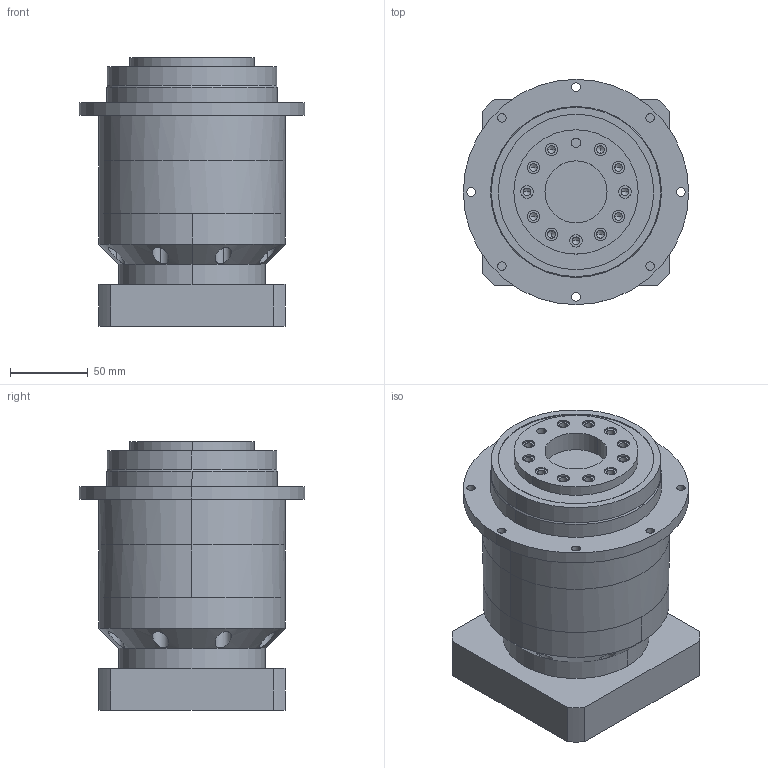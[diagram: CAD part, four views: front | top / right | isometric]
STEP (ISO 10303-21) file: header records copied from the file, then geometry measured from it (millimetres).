
FILE_DESCRIPTION (( 'STEP AP203' ), '1' );
FILE_NAME ('PLX120-L2-22-110-145.STEP', '2022-07-05T08:28:34', ( 'Windows User' ), ( 'P R C' ), 'SwSTEP 2.0', 'SolidWorks 2016', '' );
FILE_SCHEMA (( 'CONFIG_CONTROL_DESIGN' ));
Length unit declared in the file: millimetre
Products named in the file (6): PLX120-L2-22-110-145; PLX120内齿圈_一级加二级内齿圈; PLX120狟屳啣; PLX120 窣諉啣-梓袧; 囀鞠褒蹟佪-M8x25; 粣創-6009 45x75x16
Assembly tree (5 placements, depth 2):
  PLX120-L2-22-110-145
    PLX120内齿圈_一级加二级内齿圈
    PLX120狟屳啣
    PLX120 窣諉啣-梓袧
    囀鞠褒蹟佪-M8x25
    粣創-6009 45x75x16
Bounding box: 145 x 145 x 173 mm (x, y, z)
Volume: 1715827.3 mm3; surface area: 235730.9 mm2
Topology: 6 solids, 7 shells, 1139 faces, 3063 edges, 2004 vertices
Faces by surface type: plane 619, bspline 247, cylinder 237, cone 36
Entity records: 46170 total; most frequent: CARTESIAN_POINT 18543, ORIENTED_EDGE 6022, DIRECTION 4932, EDGE_CURVE 3011, VERTEX_POINT 2004, AXIS2_PLACEMENT_3D 1679, LINE 1574, VECTOR 1574
